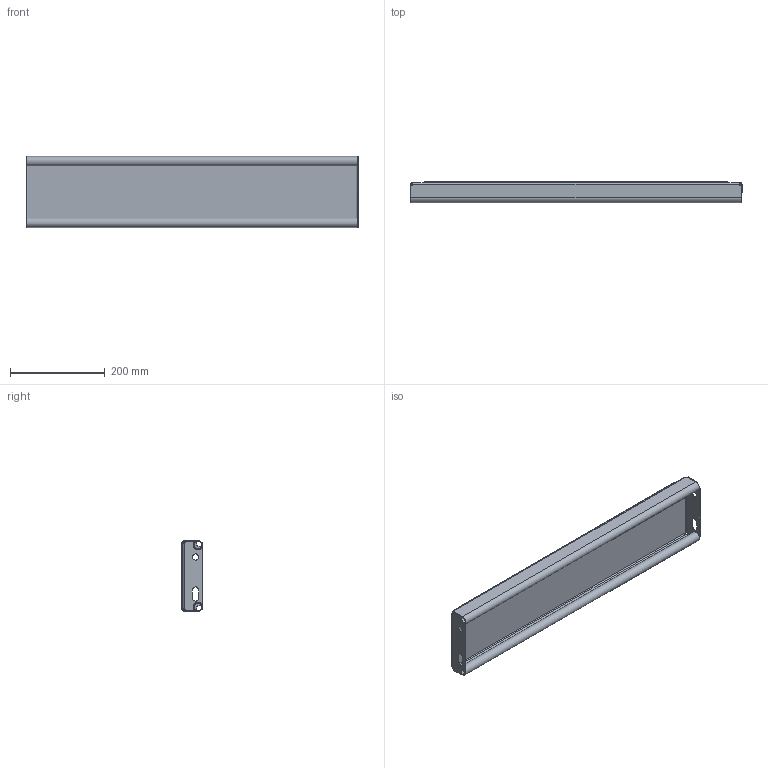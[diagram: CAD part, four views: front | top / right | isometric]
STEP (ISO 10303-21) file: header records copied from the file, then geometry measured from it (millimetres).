
FILE_DESCRIPTION (( 'STEP AP214' ), '1' );
FILE_NAME ('OPTIMO-Tread-Achil-O2-700x150x45x2-st240-F100030100-plain.STEP', '2021-03-15T09:24:28', ( '' ), ( '' ), 'SwSTEP 2.0', 'SolidWorks 2021', '' );
FILE_SCHEMA (( 'AUTOMOTIVE_DESIGN' ));
Length unit declared in the file: millimetre
Products named in the file (1): OPTIMO-Tread-Achil-O2-700x150x45x2-st240-F100030100-plain
Bounding box: 700 x 45 x 150 mm (x, y, z)
Volume: 717673.2 mm3; surface area: 454813.3 mm2
Topology: 1 solids, 1 shells, 247 faces, 637 edges, 410 vertices
Faces by surface type: plane 172, bspline 39, cylinder 36
Entity records: 9731 total; most frequent: CARTESIAN_POINT 3926, ORIENTED_EDGE 1274, DIRECTION 1017, EDGE_CURVE 637, VECTOR 487, LINE 487, VERTEX_POINT 410, EDGE_LOOP 273
